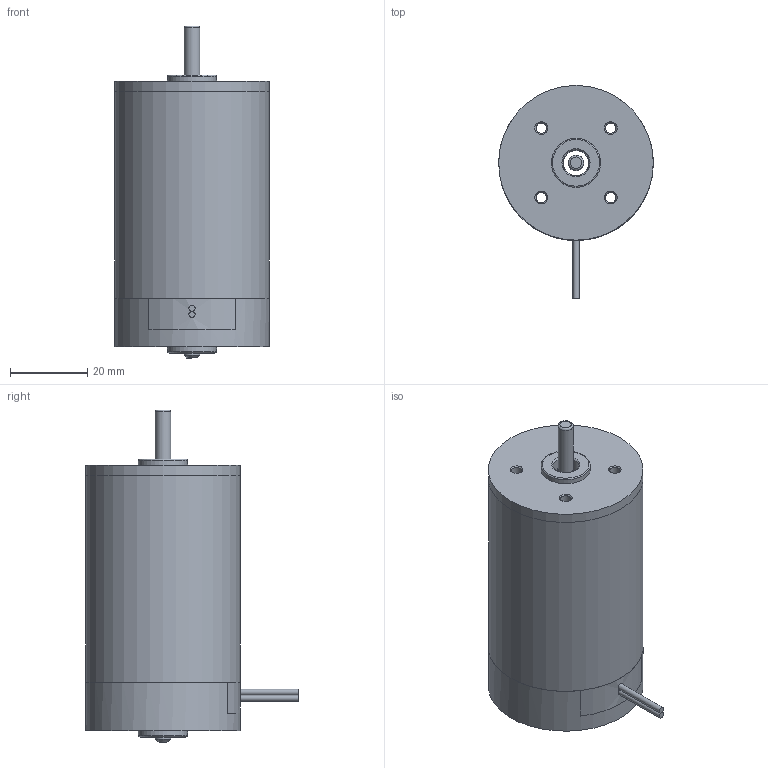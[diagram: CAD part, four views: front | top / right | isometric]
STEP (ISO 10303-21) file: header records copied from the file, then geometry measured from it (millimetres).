
FILE_DESCRIPTION((''),'2;1');
FILE_NAME('D:\연구개발부2팀 1파트\10_진행업무\3D\RM4_SERIES\RM45ㅁBL.stp','2014-06-23T10:37:08',('song'),(''),'Autodesk Inventor 2011','Autodesk Inventor 2011','');
FILE_SCHEMA(('AUTOMOTIVE_DESIGN { 1 0 10303 214 1 1 1 1 }'));
Length unit declared in the file: millimetre
Products named in the file (8): RM45ㅁBL; RM4TYPE_FRONT_HOUSING_; RM4TYPE_PIPE_HOUSING_pi40XL53.5; RM45TYPE_SHAFT; AS 1427 Z - 미터 M3.5 x 5; REAR_HOUSING__ASS'Y_LEAD; RM4TYPE_BRUSH_BRAKET_LEAD; RM4TYPE_REAR_HOUSING
Assembly tree (7 placements, depth 2):
  RM45ㅁBL
    RM4TYPE_FRONT_HOUSING_
    RM4TYPE_PIPE_HOUSING_pi40XL53.5
    RM45TYPE_SHAFT
    AS 1427 Z - 미터 M3.5 x 5  x2
  REAR_HOUSING__ASS'Y_LEAD
    RM4TYPE_BRUSH_BRAKET_LEAD
    RM4TYPE_REAR_HOUSING
Bounding box: 40 x 55 x 85.84 mm (x, y, z)
Volume: 22574.7 mm3; surface area: 23374.6 mm2
Topology: 7 solids, 8 shells, 150 faces, 359 edges, 226 vertices
Faces by surface type: plane 65, cone 44, cylinder 30, torus 11
Full cylindrical faces by diameter (mm): 1.6 x2, 2.7 x4, 2.8 x4, 3.132 x2, 3.5 x2, 3.7 x2, 3.969 x1, 4 x1, 6.1 x2, 6.5 x1, 6.65 x1, 12.7 x2, 36.5 x1, 40 x3
Entity records: 3260 total; most frequent: CARTESIAN_POINT 711, DIRECTION 516, ORIENTED_EDGE 402, AXIS2_PLACEMENT_3D 226, EDGE_CURVE 201, EDGE_LOOP 181, VERTEX_POINT 149, FACE_OUTER_BOUND 109
